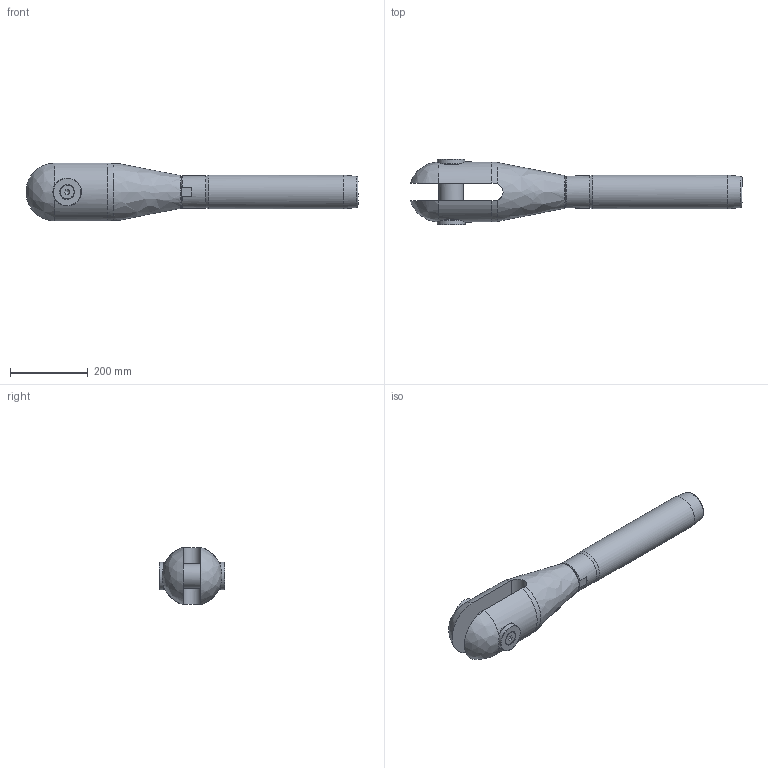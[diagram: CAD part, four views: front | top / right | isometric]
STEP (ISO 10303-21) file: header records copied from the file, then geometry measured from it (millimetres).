
FILE_DESCRIPTION(/* description */ (''),/* implementation_level */ '2;1');
FILE_NAME(/* name */ 'MAC-R 42_S355',/* time_stamp */ '2023-05-23T17:52:58+02:00',/* author */ (''),/* organization */ (''),/* preprocessor_version */ 'ST-DEVELOPER v16.5',/* originating_system */ 'Rhino 7.22',/* authorisation */ '');
FILE_SCHEMA (('CONFIG_CONTROL_DESIGN'));
Length unit declared in the file: millimetre
Products named in the file (1): Document
Bounding box: 851.65 x 169.07 x 147.58 mm (x, y, z)
Volume: 7023267.1 mm3; surface area: 497857.2 mm2
Topology: 7 solids, 7 shells, 87 faces, 245 edges, 171 vertices
Faces by surface type: plane 36, bspline 27, cylinder 24
Full cylindrical faces by diameter (mm): 17.294 x2, 20 x2, 21 x2, 35.4 x2, 63 x1, 64 x2, 71 x2, 72.752 x1, 76 x1, 83 x1, 87 x1
Entity records: 3531 total; most frequent: CARTESIAN_POINT 1975, ORIENTED_EDGE 480, EDGE_CURVE 240, VERTEX_POINT 171, EDGE_LOOP 99, B_SPLINE_CURVE_WITH_KNOTS 96, ADVANCED_FACE 87, FACE_OUTER_BOUND 87
